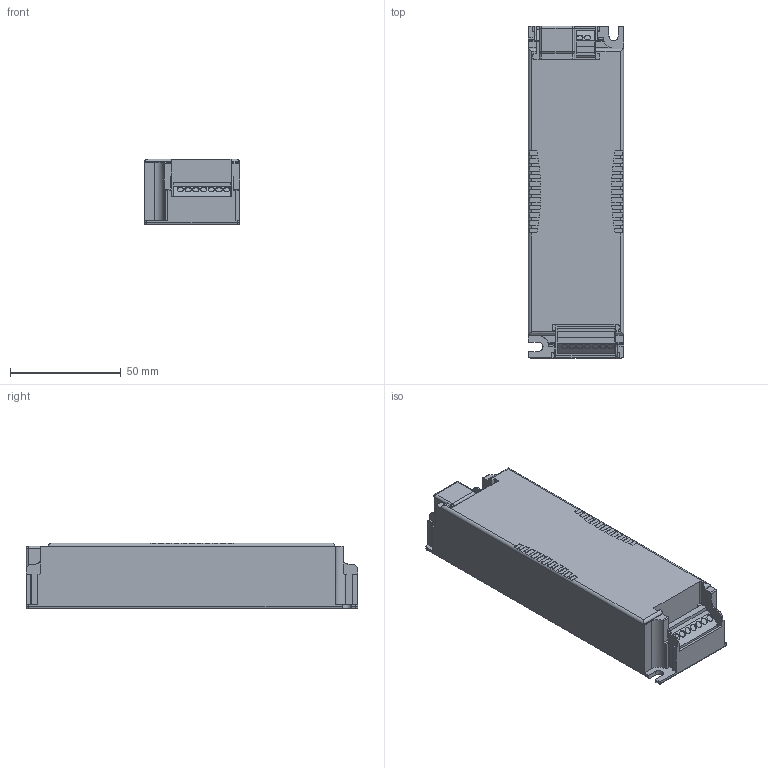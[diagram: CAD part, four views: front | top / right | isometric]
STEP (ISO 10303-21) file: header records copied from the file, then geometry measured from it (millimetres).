
FILE_DESCRIPTION((''),'2;1');
FILE_NAME('15009576Z_DATA_SC4_150_HYPE_7-2','2015-06-17T',('juergen.hrach'),(''),'PRO/ENGINEER BY PARAMETRIC TECHNOLOGY CORPORATION, 2014000','PRO/ENGINEER BY PARAMETRIC TECHNOLOGY CORPORATION, 2014000','');
FILE_SCHEMA(('AUTOMOTIVE_DESIGN { 1 0 10303 214 1 1 1 1 }'));
Length unit declared in the file: millimetre
Products named in the file (1): 15009576Z_DATA_SC4_150_HYPE_7-2
Bounding box: 43 x 150 x 29.8 mm (x, y, z)
Volume: 175778.7 mm3; surface area: 27331 mm2
Topology: 1 solids, 1 shells, 314 faces, 876 edges, 575 vertices
Faces by surface type: plane 188, cylinder 118, sphere 8
Entity records: 13477 total; most frequent: CARTESIAN_POINT 1870, DIRECTION 1753, ORIENTED_EDGE 1752, PRESENTATION_STYLE_ASSIGNMENT 901, STYLED_ITEM 877, CURVE_STYLE 876, EDGE_CURVE 876, VECTOR 593
